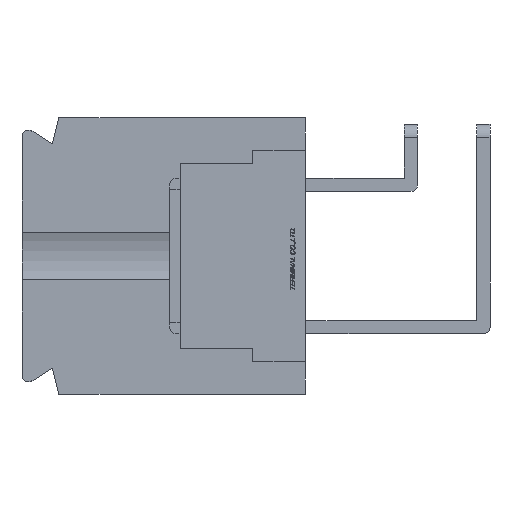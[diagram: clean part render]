
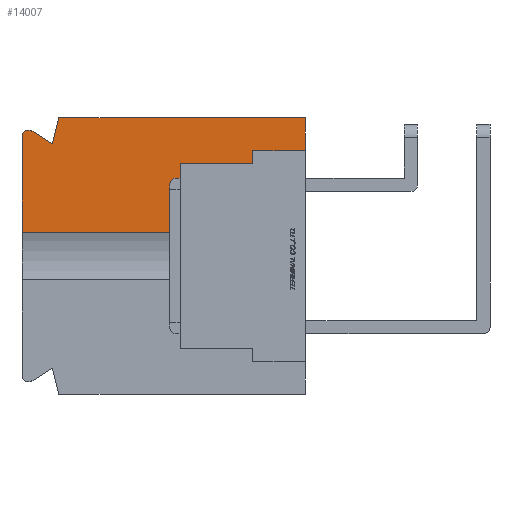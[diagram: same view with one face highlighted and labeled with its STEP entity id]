
A CAD part, left-side view. The second image highlights one B-rep face of the part: STEP entity #14007.
In plain terms, the highlighted planar face has unit normal (-1, 0, 0).
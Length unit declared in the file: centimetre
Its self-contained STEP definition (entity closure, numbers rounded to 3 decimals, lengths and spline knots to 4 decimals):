
#677=CIRCLE('',#23611,0.05);
#911=VERTEX_POINT('',#18378);
#912=VERTEX_POINT('',#18380);
#1340=VERTEX_POINT('',#19713);
#1341=VERTEX_POINT('',#19715);
#1346=VERTEX_POINT('',#19726);
#1348=VERTEX_POINT('',#19732);
#1350=VERTEX_POINT('',#19738);
#1351=VERTEX_POINT('',#19745);
#1352=VERTEX_POINT('',#19747);
#1353=VERTEX_POINT('',#19749);
#1354=VERTEX_POINT('',#19751);
#2380=VECTOR('',#15426,1.);
#2866=VECTOR('',#16422,1.);
#2871=VECTOR('',#16436,1.);
#2874=VECTOR('',#16440,1.);
#2877=VECTOR('',#16444,1.);
#2878=VECTOR('',#16446,1.);
#2879=VECTOR('',#16447,1.);
#2880=VECTOR('',#16448,1.);
#2881=VECTOR('',#16449,1.);
#2882=VECTOR('',#16450,1.);
#4059=LINE('',#18379,#2380);
#4545=LINE('',#19714,#2866);
#4550=LINE('',#19731,#2871);
#4553=LINE('',#19737,#2874);
#4556=LINE('',#19742,#2877);
#4557=LINE('',#19744,#2878);
#4558=LINE('',#19746,#2879);
#4559=LINE('',#19748,#2880);
#4560=LINE('',#19750,#2881);
#4561=LINE('',#19752,#2882);
#5774=EDGE_CURVE('',#911,#912,#4059,.T.);
#6417=EDGE_CURVE('',#1340,#1341,#4545,.T.);
#6424=EDGE_CURVE('',#1341,#1346,#677,.T.);
#6427=EDGE_CURVE('',#1346,#1348,#4550,.T.);
#6430=EDGE_CURVE('',#1348,#1350,#4553,.T.);
#6433=EDGE_CURVE('',#1350,#911,#4556,.T.);
#6434=EDGE_CURVE('',#1351,#912,#4557,.T.);
#6435=EDGE_CURVE('',#1340,#1352,#4558,.T.);
#6436=EDGE_CURVE('',#1352,#1353,#4559,.T.);
#6437=EDGE_CURVE('',#1353,#1354,#4560,.T.);
#6438=EDGE_CURVE('',#1354,#1351,#4561,.T.);
#9380=ORIENTED_EDGE('',*,*,#6434,.T.);
#9381=ORIENTED_EDGE('',*,*,#5774,.F.);
#9382=ORIENTED_EDGE('',*,*,#6433,.F.);
#9383=ORIENTED_EDGE('',*,*,#6430,.F.);
#9384=ORIENTED_EDGE('',*,*,#6427,.F.);
#9385=ORIENTED_EDGE('',*,*,#6424,.F.);
#9386=ORIENTED_EDGE('',*,*,#6417,.F.);
#9387=ORIENTED_EDGE('',*,*,#6435,.T.);
#9388=ORIENTED_EDGE('',*,*,#6436,.T.);
#9389=ORIENTED_EDGE('',*,*,#6437,.T.);
#9390=ORIENTED_EDGE('',*,*,#6438,.T.);
#12286=EDGE_LOOP('',(#9380,#9381,#9382,#9383,#9384,#9385,#9386,#9387,#9388,
#9389,#9390));
#13164=FACE_BOUND('',#12286,.T.);
#14007=ADVANCED_FACE('',(#13164),#14720,.F.);
#14720=PLANE('',#23615);
#15426=DIRECTION('',(0.,0.,-1.));
#16422=DIRECTION('',(0.,0.,1.));
#16431=DIRECTION('',(1.,0.,0.));
#16432=DIRECTION('',(0.,0.,-0.05));
#16436=DIRECTION('',(0.,-0.844,-0.536));
#16440=DIRECTION('',(0.,-0.243,0.97));
#16444=DIRECTION('',(0.,-1.,0.));
#16445=DIRECTION('',(1.,0.,0.));
#16446=DIRECTION('',(0.,-1.,0.));
#16447=DIRECTION('',(0.,-1.,0.));
#16448=DIRECTION('',(0.,0.,1.));
#16449=DIRECTION('',(0.,-1.,0.));
#16450=DIRECTION('',(0.,0.,1.));
#18378=CARTESIAN_POINT('',(-1.1,0.,1.05));
#18379=CARTESIAN_POINT('',(-1.1,0.,1.05));
#18380=CARTESIAN_POINT('',(-1.1,0.,0.8));
#19713=CARTESIAN_POINT('',(-1.1,2.15,0.1809));
#19714=CARTESIAN_POINT('',(-1.1,2.15,-0.905));
#19715=CARTESIAN_POINT('',(-1.1,2.15,0.905));
#19725=CARTESIAN_POINT('',(-1.1,2.1,0.905));
#19726=CARTESIAN_POINT('',(-1.1,2.0742,0.9478));
#19731=CARTESIAN_POINT('',(-1.1,2.0742,0.9478));
#19732=CARTESIAN_POINT('',(-1.1,1.92,0.85));
#19737=CARTESIAN_POINT('',(-1.1,1.92,0.85));
#19738=CARTESIAN_POINT('',(-1.1,1.87,1.05));
#19742=CARTESIAN_POINT('',(-1.1,1.87,1.05));
#19743=CARTESIAN_POINT('',(-1.1,1.082,0.));
#19744=CARTESIAN_POINT('',(-1.1,0.641,0.8));
#19745=CARTESIAN_POINT('',(-1.1,0.4,0.8));
#19746=CARTESIAN_POINT('',(-1.1,1.55,0.1809));
#19747=CARTESIAN_POINT('',(-1.1,0.95,0.1809));
#19748=CARTESIAN_POINT('',(-1.1,0.95,0.));
#19749=CARTESIAN_POINT('',(-1.1,0.95,0.7));
#19750=CARTESIAN_POINT('',(-1.1,0.8785,0.7));
#19751=CARTESIAN_POINT('',(-1.1,0.4,0.7));
#19752=CARTESIAN_POINT('',(-1.1,0.4,0.375));
#23611=AXIS2_PLACEMENT_3D('',#19725,#16431,#16432);
#23615=AXIS2_PLACEMENT_3D('',#19743,#16445,$);
